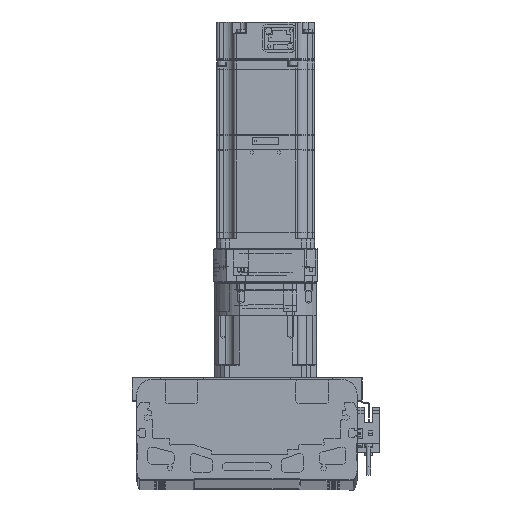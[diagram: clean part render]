
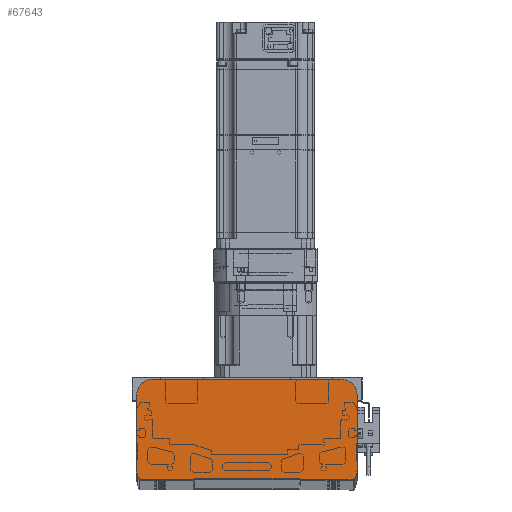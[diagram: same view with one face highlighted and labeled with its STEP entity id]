
A CAD part, top view. The second image highlights one B-rep face of the part: STEP entity #67643.
In plain terms, the highlighted planar face has unit normal (0, 0, 1).
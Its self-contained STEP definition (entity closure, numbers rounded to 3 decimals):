
#3002 = EDGE_CURVE ( 'NONE', #73393, #97915, #129157, .T. ) ;
#4104 = LINE ( 'NONE', #23182, #94764 ) ;
#4258 = VERTEX_POINT ( 'NONE', #56884 ) ;
#4411 = CIRCLE ( 'NONE', #121841, 0.5 ) ;
#4477 = CARTESIAN_POINT ( 'NONE',  ( 270.33, 143.083, 3330. ) ) ;
#4942 = LINE ( 'NONE', #13790, #58324 ) ;
#6255 = CARTESIAN_POINT ( 'NONE',  ( 270.345, 142.962, 3330. ) ) ;
#6927 = VERTEX_POINT ( 'NONE', #80674 ) ;
#9609 = EDGE_CURVE ( 'NONE', #4258, #36273, #4942, .T. ) ;
#13790 = CARTESIAN_POINT ( 'NONE',  ( 272.291, 137.583, 3330. ) ) ;
#14277 = DIRECTION ( 'NONE',  ( 0., -1., 0. ) ) ;
#14289 = DIRECTION ( 'NONE',  ( 1., 0., 0. ) ) ;
#16480 = EDGE_CURVE ( 'NONE', #124225, #73393, #25089, .T. ) ;
#16878 = DIRECTION ( 'NONE',  ( 0., 0., 1. ) ) ;
#18580 = DIRECTION ( 'NONE',  ( 0., 0., 1. ) ) ;
#19722 = ORIENTED_EDGE ( 'NONE', *, *, #131361, .T. ) ;
#21092 = ORIENTED_EDGE ( 'NONE', *, *, #128555, .T. ) ;
#23182 = CARTESIAN_POINT ( 'NONE',  ( 270.33, 189.083, 3330. ) ) ;
#24040 = DIRECTION ( 'NONE',  ( 1., 0., 0. ) ) ;
#25089 = CIRCLE ( 'NONE', #94643, 10. ) ;
#26506 = ORIENTED_EDGE ( 'NONE', *, *, #44941, .T. ) ;
#26562 = CARTESIAN_POINT ( 'NONE',  ( 280.33, 189.083, 3330. ) ) ;
#31744 = ORIENTED_EDGE ( 'NONE', *, *, #95921, .T. ) ;
#36273 = VERTEX_POINT ( 'NONE', #75428 ) ;
#37197 = DIRECTION ( 'NONE',  ( 0.242, -0.97, 0. ) ) ;
#38704 = DIRECTION ( 'NONE',  ( 1., 0., 0. ) ) ;
#43941 = VERTEX_POINT ( 'NONE', #6255 ) ;
#44163 = AXIS2_PLACEMENT_3D ( 'NONE', #26562, #46968, #14289 ) ;
#44941 = EDGE_CURVE ( 'NONE', #97915, #64679, #102825, .T. ) ;
#45455 = VERTEX_POINT ( 'NONE', #4477 ) ;
#46968 = DIRECTION ( 'NONE',  ( 0., 0., 1. ) ) ;
#47333 = CARTESIAN_POINT ( 'NONE',  ( 270.33, 189.083, 3330. ) ) ;
#48902 = CARTESIAN_POINT ( 'NONE',  ( 399.656, 140.933, 3330. ) ) ;
#49850 = ORIENTED_EDGE ( 'NONE', *, *, #123023, .T. ) ;
#51782 = EDGE_CURVE ( 'NONE', #84949, #4258, #71024, .T. ) ;
#54233 = CARTESIAN_POINT ( 'NONE',  ( 271.152, 139.723, 3330. ) ) ;
#54947 = ORIENTED_EDGE ( 'NONE', *, *, #51782, .T. ) ;
#55673 = DIRECTION ( 'NONE',  ( -1., 0., 0. ) ) ;
#56395 = VECTOR ( 'NONE', #124361, 1000. ) ;
#56884 = CARTESIAN_POINT ( 'NONE',  ( 272.291, 137.583, 3330. ) ) ;
#57875 = DIRECTION ( 'NONE',  ( 1., 0., 0. ) ) ;
#58324 = VECTOR ( 'NONE', #24040, 1000. ) ;
#58628 = VECTOR ( 'NONE', #55673, 1000. ) ;
#59769 = DIRECTION ( 'NONE',  ( 1., 0., 0. ) ) ;
#60894 = CARTESIAN_POINT ( 'NONE',  ( 405.33, 189.083, 3330. ) ) ;
#62129 = DIRECTION ( 'NONE',  ( 1., 0., 0. ) ) ;
#62881 = EDGE_CURVE ( 'NONE', #6927, #124225, #82978, .T. ) ;
#64679 = VERTEX_POINT ( 'NONE', #47333 ) ;
#67643 = ADVANCED_FACE ( 'NONE', ( #89208 ), #120516, .T. ) ;
#67655 = DIRECTION ( 'NONE',  ( 0., 0., 1. ) ) ;
#69537 = ORIENTED_EDGE ( 'NONE', *, *, #86002, .T. ) ;
#71024 = CIRCLE ( 'NONE', #94895, 5. ) ;
#71395 = CARTESIAN_POINT ( 'NONE',  ( 280.33, 199.083, 3330. ) ) ;
#73393 = VERTEX_POINT ( 'NONE', #95852 ) ;
#75428 = CARTESIAN_POINT ( 'NONE',  ( 403.368, 137.583, 3330. ) ) ;
#76301 = CIRCLE ( 'NONE', #121914, 0.5 ) ;
#79190 = CARTESIAN_POINT ( 'NONE',  ( 404.83, 143.083, 3330. ) ) ;
#80674 = CARTESIAN_POINT ( 'NONE',  ( 405.33, 143.083, 3330. ) ) ;
#82978 = LINE ( 'NONE', #114273, #116300 ) ;
#83334 = ORIENTED_EDGE ( 'NONE', *, *, #9609, .T. ) ;
#84949 = VERTEX_POINT ( 'NONE', #54233 ) ;
#86002 = EDGE_CURVE ( 'NONE', #43941, #84949, #130423, .T. ) ;
#88521 = DIRECTION ( 'NONE',  ( 0., 0., 1. ) ) ;
#88917 = AXIS2_PLACEMENT_3D ( 'NONE', #48902, #16878, #38704 ) ;
#89208 = FACE_OUTER_BOUND ( 'NONE', #116589, .T. ) ;
#89217 = CIRCLE ( 'NONE', #88917, 5. ) ;
#90117 = ORIENTED_EDGE ( 'NONE', *, *, #3002, .T. ) ;
#90495 = DIRECTION ( 'NONE',  ( 1., 0., 0. ) ) ;
#91533 = CARTESIAN_POINT ( 'NONE',  ( 404.507, 139.723, 3330. ) ) ;
#92408 = CARTESIAN_POINT ( 'NONE',  ( 395.33, 189.083, 3330. ) ) ;
#93796 = EDGE_CURVE ( 'NONE', #106465, #102456, #104592, .T. ) ;
#94643 = AXIS2_PLACEMENT_3D ( 'NONE', #92408, #121057, #59769 ) ;
#94764 = VECTOR ( 'NONE', #14277, 1000. ) ;
#94895 = AXIS2_PLACEMENT_3D ( 'NONE', #120470, #98676, #90495 ) ;
#95249 = ORIENTED_EDGE ( 'NONE', *, *, #62881, .T. ) ;
#95852 = CARTESIAN_POINT ( 'NONE',  ( 395.33, 199.083, 3330. ) ) ;
#95921 = EDGE_CURVE ( 'NONE', #36273, #106465, #89217, .T. ) ;
#97915 = VERTEX_POINT ( 'NONE', #71395 ) ;
#98676 = DIRECTION ( 'NONE',  ( 0., 0., 1. ) ) ;
#102456 = VERTEX_POINT ( 'NONE', #111907 ) ;
#102825 = CIRCLE ( 'NONE', #44163, 10. ) ;
#103715 = VECTOR ( 'NONE', #37197, 1000. ) ;
#104592 = LINE ( 'NONE', #115479, #56395 ) ;
#106465 = VERTEX_POINT ( 'NONE', #91533 ) ;
#107813 = DIRECTION ( 'NONE',  ( 1., 0., 0. ) ) ;
#108258 = CARTESIAN_POINT ( 'NONE',  ( 276.004, 140.933, 3330. ) ) ;
#108731 = CARTESIAN_POINT ( 'NONE',  ( 395.33, 199.083, 3330. ) ) ;
#111907 = CARTESIAN_POINT ( 'NONE',  ( 405.315, 142.962, 3330. ) ) ;
#114273 = CARTESIAN_POINT ( 'NONE',  ( 405.33, 143.083, 3330. ) ) ;
#115479 = CARTESIAN_POINT ( 'NONE',  ( 404.507, 139.723, 3330. ) ) ;
#116300 = VECTOR ( 'NONE', #124506, 1000. ) ;
#116584 = ORIENTED_EDGE ( 'NONE', *, *, #16480, .T. ) ;
#116589 = EDGE_LOOP ( 'NONE', ( #54947, #83334, #31744, #130102, #21092, #95249, #116584, #90117, #26506, #49850, #19722, #69537 ) ) ;
#116953 = AXIS2_PLACEMENT_3D ( 'NONE', #108258, #88521, #57875 ) ;
#120470 = CARTESIAN_POINT ( 'NONE',  ( 276.004, 140.933, 3330. ) ) ;
#120516 = PLANE ( 'NONE',  #116953 ) ;
#121057 = DIRECTION ( 'NONE',  ( 0., 0., 1. ) ) ;
#121841 = AXIS2_PLACEMENT_3D ( 'NONE', #79190, #67655, #107813 ) ;
#121914 = AXIS2_PLACEMENT_3D ( 'NONE', #132298, #18580, #62129 ) ;
#123023 = EDGE_CURVE ( 'NONE', #64679, #45455, #4104, .T. ) ;
#124225 = VERTEX_POINT ( 'NONE', #60894 ) ;
#124361 = DIRECTION ( 'NONE',  ( 0.242, 0.97, 0. ) ) ;
#124506 = DIRECTION ( 'NONE',  ( 0., 1., 0. ) ) ;
#128555 = EDGE_CURVE ( 'NONE', #102456, #6927, #4411, .T. ) ;
#129157 = LINE ( 'NONE', #108731, #58628 ) ;
#130102 = ORIENTED_EDGE ( 'NONE', *, *, #93796, .T. ) ;
#130423 = LINE ( 'NONE', #131084, #103715 ) ;
#131084 = CARTESIAN_POINT ( 'NONE',  ( 270.345, 142.962, 3330. ) ) ;
#131361 = EDGE_CURVE ( 'NONE', #45455, #43941, #76301, .T. ) ;
#132298 = CARTESIAN_POINT ( 'NONE',  ( 270.83, 143.083, 3330. ) ) ;
